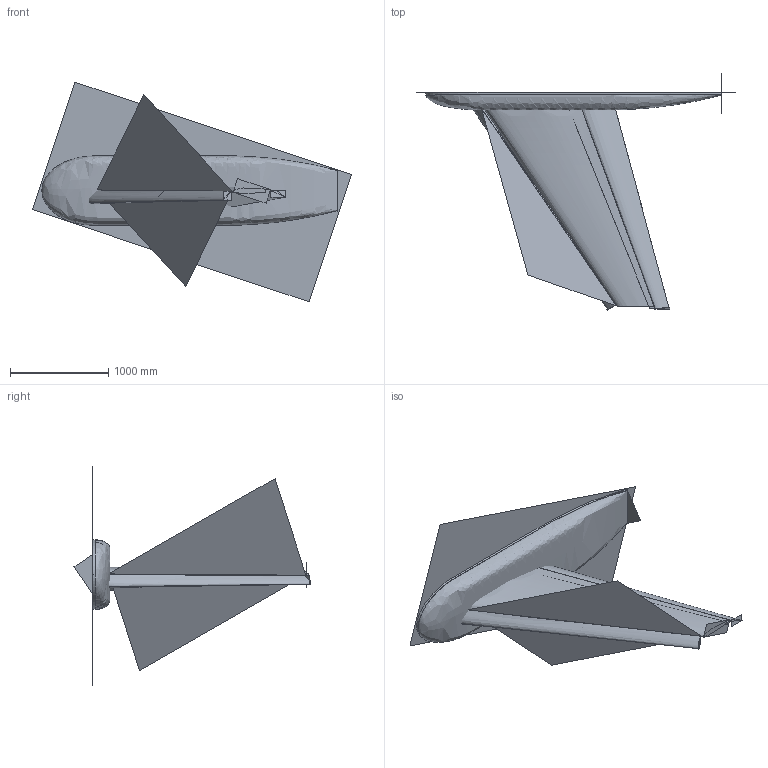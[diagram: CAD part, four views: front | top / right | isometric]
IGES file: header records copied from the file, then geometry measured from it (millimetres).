
Start section: This file was written from GridTool (For more information see ht tp://geolab.larc.nasa.gov/GridTool) or contact GridTool author: Jamshid Samareh (j.a.samareh@larc.nasa.gov)
Global section: file name: 76H/usr/gpfs/home/ts16014/TetrUSS_Projects/HiLiftPW-1/Grid_v6/Su        rface/HLPW1.igs; native system: Jamshid_system(j.a.samareh@larc.nasa.gov); preprocessor: V.0.0.0.0.0; author: Jamshid_Samareh; organization: CSC; date: 13H1100501.150438; units: inch
Bounding box: 3253.18 x 2407.27 x 2239.31 mm (x, y, z)
Surface area: 17340321.6 mm2 (no closed solid volume)
Topology: 0 solids, 0 shells, 28 faces, 206 edges, 300 vertices
Faces by surface type: bspline 28
